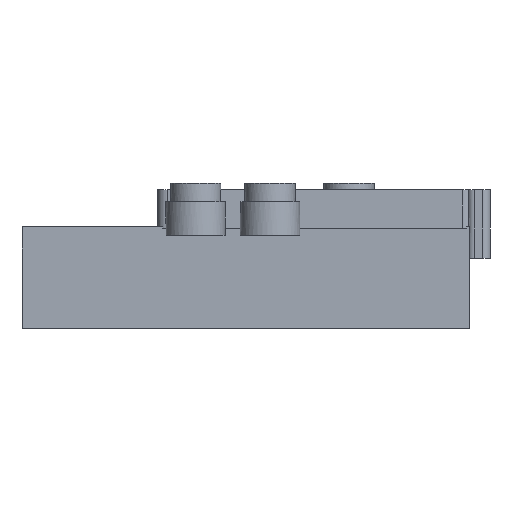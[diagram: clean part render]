
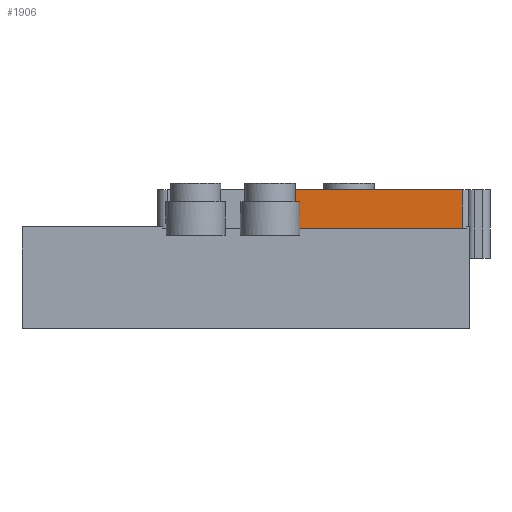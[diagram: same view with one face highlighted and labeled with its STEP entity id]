
A CAD part, left-side view. The second image highlights one B-rep face of the part: STEP entity #1906.
In plain terms, the highlighted planar face has unit normal (-1, 0, 0).
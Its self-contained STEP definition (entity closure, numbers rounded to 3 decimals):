
#334 = CYLINDRICAL_SURFACE('',#335,2.6);
#335 = AXIS2_PLACEMENT_3D('',#336,#337,#338);
#336 = CARTESIAN_POINT('',(-33.4,44.4,-8.6));
#337 = DIRECTION('',(0.,0.,1.));
#338 = DIRECTION('',(1.,0.,-0.));
#407 = PLANE('',#408);
#408 = AXIS2_PLACEMENT_3D('',#409,#410,#411);
#409 = CARTESIAN_POINT('',(-31.4,26.78,-8.));
#410 = DIRECTION('',(0.,0.,1.));
#411 = DIRECTION('',(1.,0.,-0.));
#431 = CYLINDRICAL_SURFACE('',#432,0.8);
#432 = AXIS2_PLACEMENT_3D('',#433,#434,#435);
#433 = CARTESIAN_POINT('',(-30.6,27.58,-8.));
#434 = DIRECTION('',(0.,0.,1.));
#435 = DIRECTION('',(-1.,-0.,0.));
#523 = EDGE_CURVE('',#524,#526,#528,.T.);
#524 = VERTEX_POINT('',#525);
#525 = CARTESIAN_POINT('',(-31.4,27.58,-8.));
#526 = VERTEX_POINT('',#527);
#527 = CARTESIAN_POINT('',(-31.4,27.58,-4.6));
#528 = SURFACE_CURVE('',#529,(#533,#540),.PCURVE_S1.);
#529 = LINE('',#530,#531);
#530 = CARTESIAN_POINT('',(-31.4,27.58,-8.));
#531 = VECTOR('',#532,1.);
#532 = DIRECTION('',(0.,0.,1.));
#533 = PCURVE('',#431,#534);
#534 = DEFINITIONAL_REPRESENTATION('',(#535),#539);
#535 = LINE('',#536,#537);
#536 = CARTESIAN_POINT('',(0.,0.));
#537 = VECTOR('',#538,1.);
#538 = DIRECTION('',(0.,1.));
#539 = ( GEOMETRIC_REPRESENTATION_CONTEXT(2) 
PARAMETRIC_REPRESENTATION_CONTEXT() REPRESENTATION_CONTEXT('2D SPACE',''
  ) );
#540 = PCURVE('',#541,#546);
#541 = PLANE('',#542);
#542 = AXIS2_PLACEMENT_3D('',#543,#544,#545);
#543 = CARTESIAN_POINT('',(-31.4,26.78,-8.));
#544 = DIRECTION('',(1.,0.,-0.));
#545 = DIRECTION('',(0.,0.,1.));
#546 = DEFINITIONAL_REPRESENTATION('',(#547),#551);
#547 = LINE('',#548,#549);
#548 = CARTESIAN_POINT('',(0.,-0.8));
#549 = VECTOR('',#550,1.);
#550 = DIRECTION('',(1.,0.));
#551 = ( GEOMETRIC_REPRESENTATION_CONTEXT(2) 
PARAMETRIC_REPRESENTATION_CONTEXT() REPRESENTATION_CONTEXT('2D SPACE',''
  ) );
#613 = PLANE('',#614);
#614 = AXIS2_PLACEMENT_3D('',#615,#616,#617);
#615 = CARTESIAN_POINT('',(-31.4,26.78,-4.6));
#616 = DIRECTION('',(0.,0.,1.));
#617 = DIRECTION('',(1.,0.,-0.));
#628 = EDGE_CURVE('',#524,#629,#631,.T.);
#629 = VERTEX_POINT('',#630);
#630 = CARTESIAN_POINT('',(-31.4,42.739,-8.));
#631 = SURFACE_CURVE('',#632,(#636,#643),.PCURVE_S1.);
#632 = LINE('',#633,#634);
#633 = CARTESIAN_POINT('',(-31.4,26.78,-8.));
#634 = VECTOR('',#635,1.);
#635 = DIRECTION('',(-0.,1.,0.));
#636 = PCURVE('',#407,#637);
#637 = DEFINITIONAL_REPRESENTATION('',(#638),#642);
#638 = LINE('',#639,#640);
#639 = CARTESIAN_POINT('',(0.,0.));
#640 = VECTOR('',#641,1.);
#641 = DIRECTION('',(0.,1.));
#642 = ( GEOMETRIC_REPRESENTATION_CONTEXT(2) 
PARAMETRIC_REPRESENTATION_CONTEXT() REPRESENTATION_CONTEXT('2D SPACE',''
  ) );
#643 = PCURVE('',#541,#644);
#644 = DEFINITIONAL_REPRESENTATION('',(#645),#649);
#645 = LINE('',#646,#647);
#646 = CARTESIAN_POINT('',(0.,0.));
#647 = VECTOR('',#648,1.);
#648 = DIRECTION('',(0.,-1.));
#649 = ( GEOMETRIC_REPRESENTATION_CONTEXT(2) 
PARAMETRIC_REPRESENTATION_CONTEXT() REPRESENTATION_CONTEXT('2D SPACE',''
  ) );
#681 = VERTEX_POINT('',#682);
#682 = CARTESIAN_POINT('',(-31.4,42.739,-5.65));
#697 = PLANE('',#698);
#698 = AXIS2_PLACEMENT_3D('',#699,#700,#701);
#699 = CARTESIAN_POINT('',(-33.4,44.4,-5.65));
#700 = DIRECTION('',(0.,0.,1.));
#701 = DIRECTION('',(1.,0.,-0.));
#782 = EDGE_CURVE('',#629,#681,#783,.T.);
#783 = SURFACE_CURVE('',#784,(#788,#794),.PCURVE_S1.);
#784 = LINE('',#785,#786);
#785 = CARTESIAN_POINT('',(-31.4,42.739,-8.6));
#786 = VECTOR('',#787,1.);
#787 = DIRECTION('',(0.,0.,1.));
#788 = PCURVE('',#334,#789);
#789 = DEFINITIONAL_REPRESENTATION('',(#790),#793);
#790 = B_SPLINE_CURVE_WITH_KNOTS('',1,(#791,#792),.UNSPECIFIED.,.F.,.F.,
  (2,2),(0.26,2.95),.PIECEWISE_BEZIER_KNOTS.);
#791 = CARTESIAN_POINT('',(5.59,0.26));
#792 = CARTESIAN_POINT('',(5.59,2.95));
#793 = ( GEOMETRIC_REPRESENTATION_CONTEXT(2) 
PARAMETRIC_REPRESENTATION_CONTEXT() REPRESENTATION_CONTEXT('2D SPACE',''
  ) );
#794 = PCURVE('',#541,#795);
#795 = DEFINITIONAL_REPRESENTATION('',(#796),#799);
#796 = B_SPLINE_CURVE_WITH_KNOTS('',1,(#797,#798),.UNSPECIFIED.,.F.,.F.,
  (2,2),(0.26,2.95),.PIECEWISE_BEZIER_KNOTS.);
#797 = CARTESIAN_POINT('',(-0.34,-15.959));
#798 = CARTESIAN_POINT('',(2.35,-15.959));
#799 = ( GEOMETRIC_REPRESENTATION_CONTEXT(2) 
PARAMETRIC_REPRESENTATION_CONTEXT() REPRESENTATION_CONTEXT('2D SPACE',''
  ) );
#1906 = ADVANCED_FACE('',(#1907),#541,.F.);
#1907 = FACE_BOUND('',#1908,.F.);
#1908 = EDGE_LOOP('',(#1909,#1932,#1933,#1934,#1935,#1956));
#1909 = ORIENTED_EDGE('',*,*,#1910,.F.);
#1910 = EDGE_CURVE('',#526,#1911,#1913,.T.);
#1911 = VERTEX_POINT('',#1912);
#1912 = CARTESIAN_POINT('',(-31.4,43.483,-4.6));
#1913 = SURFACE_CURVE('',#1914,(#1918,#1925),.PCURVE_S1.);
#1914 = LINE('',#1915,#1916);
#1915 = CARTESIAN_POINT('',(-31.4,26.78,-4.6));
#1916 = VECTOR('',#1917,1.);
#1917 = DIRECTION('',(-0.,1.,0.));
#1918 = PCURVE('',#541,#1919);
#1919 = DEFINITIONAL_REPRESENTATION('',(#1920),#1924);
#1920 = LINE('',#1921,#1922);
#1921 = CARTESIAN_POINT('',(3.4,0.));
#1922 = VECTOR('',#1923,1.);
#1923 = DIRECTION('',(0.,-1.));
#1924 = ( GEOMETRIC_REPRESENTATION_CONTEXT(2) 
PARAMETRIC_REPRESENTATION_CONTEXT() REPRESENTATION_CONTEXT('2D SPACE',''
  ) );
#1925 = PCURVE('',#613,#1926);
#1926 = DEFINITIONAL_REPRESENTATION('',(#1927),#1931);
#1927 = LINE('',#1928,#1929);
#1928 = CARTESIAN_POINT('',(0.,0.));
#1929 = VECTOR('',#1930,1.);
#1930 = DIRECTION('',(0.,1.));
#1931 = ( GEOMETRIC_REPRESENTATION_CONTEXT(2) 
PARAMETRIC_REPRESENTATION_CONTEXT() REPRESENTATION_CONTEXT('2D SPACE',''
  ) );
#1932 = ORIENTED_EDGE('',*,*,#523,.F.);
#1933 = ORIENTED_EDGE('',*,*,#628,.T.);
#1934 = ORIENTED_EDGE('',*,*,#782,.T.);
#1935 = ORIENTED_EDGE('',*,*,#1936,.T.);
#1936 = EDGE_CURVE('',#681,#1937,#1939,.T.);
#1937 = VERTEX_POINT('',#1938);
#1938 = CARTESIAN_POINT('',(-31.4,43.483,-5.65));
#1939 = SURFACE_CURVE('',#1940,(#1944,#1950),.PCURVE_S1.);
#1940 = LINE('',#1941,#1942);
#1941 = CARTESIAN_POINT('',(-31.4,35.59,-5.65));
#1942 = VECTOR('',#1943,1.);
#1943 = DIRECTION('',(-0.,1.,0.));
#1944 = PCURVE('',#541,#1945);
#1945 = DEFINITIONAL_REPRESENTATION('',(#1946),#1949);
#1946 = B_SPLINE_CURVE_WITH_KNOTS('',1,(#1947,#1948),.UNSPECIFIED.,.F.,
  .F.,(2,2),(6.21,11.41),.PIECEWISE_BEZIER_KNOTS.);
#1947 = CARTESIAN_POINT('',(2.35,-15.02));
#1948 = CARTESIAN_POINT('',(2.35,-20.22));
#1949 = ( GEOMETRIC_REPRESENTATION_CONTEXT(2) 
PARAMETRIC_REPRESENTATION_CONTEXT() REPRESENTATION_CONTEXT('2D SPACE',''
  ) );
#1950 = PCURVE('',#697,#1951);
#1951 = DEFINITIONAL_REPRESENTATION('',(#1952),#1955);
#1952 = B_SPLINE_CURVE_WITH_KNOTS('',1,(#1953,#1954),.UNSPECIFIED.,.F.,
  .F.,(2,2),(6.21,11.41),.PIECEWISE_BEZIER_KNOTS.);
#1953 = CARTESIAN_POINT('',(2.,-2.6));
#1954 = CARTESIAN_POINT('',(2.,2.6));
#1955 = ( GEOMETRIC_REPRESENTATION_CONTEXT(2) 
PARAMETRIC_REPRESENTATION_CONTEXT() REPRESENTATION_CONTEXT('2D SPACE',''
  ) );
#1956 = ORIENTED_EDGE('',*,*,#1957,.T.);
#1957 = EDGE_CURVE('',#1937,#1911,#1958,.T.);
#1958 = SURFACE_CURVE('',#1959,(#1963,#1969),.PCURVE_S1.);
#1959 = LINE('',#1960,#1961);
#1960 = CARTESIAN_POINT('',(-31.4,43.483,-6.));
#1961 = VECTOR('',#1962,1.);
#1962 = DIRECTION('',(0.,0.,1.));
#1963 = PCURVE('',#541,#1964);
#1964 = DEFINITIONAL_REPRESENTATION('',(#1965),#1968);
#1965 = B_SPLINE_CURVE_WITH_KNOTS('',1,(#1966,#1967),.UNSPECIFIED.,.F.,
  .F.,(2,2),(0.35,1.74),.PIECEWISE_BEZIER_KNOTS.);
#1966 = CARTESIAN_POINT('',(2.35,-16.703));
#1967 = CARTESIAN_POINT('',(3.74,-16.703));
#1968 = ( GEOMETRIC_REPRESENTATION_CONTEXT(2) 
PARAMETRIC_REPRESENTATION_CONTEXT() REPRESENTATION_CONTEXT('2D SPACE',''
  ) );
#1969 = PCURVE('',#1970,#1975);
#1970 = CYLINDRICAL_SURFACE('',#1971,2.2);
#1971 = AXIS2_PLACEMENT_3D('',#1972,#1973,#1974);
#1972 = CARTESIAN_POINT('',(-33.4,44.4,-6.));
#1973 = DIRECTION('',(0.,0.,1.));
#1974 = DIRECTION('',(1.,0.,-0.));
#1975 = DEFINITIONAL_REPRESENTATION('',(#1976),#1979);
#1976 = B_SPLINE_CURVE_WITH_KNOTS('',1,(#1977,#1978),.UNSPECIFIED.,.F.,
  .F.,(2,2),(0.35,1.74),.PIECEWISE_BEZIER_KNOTS.);
#1977 = CARTESIAN_POINT('',(5.853,0.35));
#1978 = CARTESIAN_POINT('',(5.853,1.74));
#1979 = ( GEOMETRIC_REPRESENTATION_CONTEXT(2) 
PARAMETRIC_REPRESENTATION_CONTEXT() REPRESENTATION_CONTEXT('2D SPACE',''
  ) );
